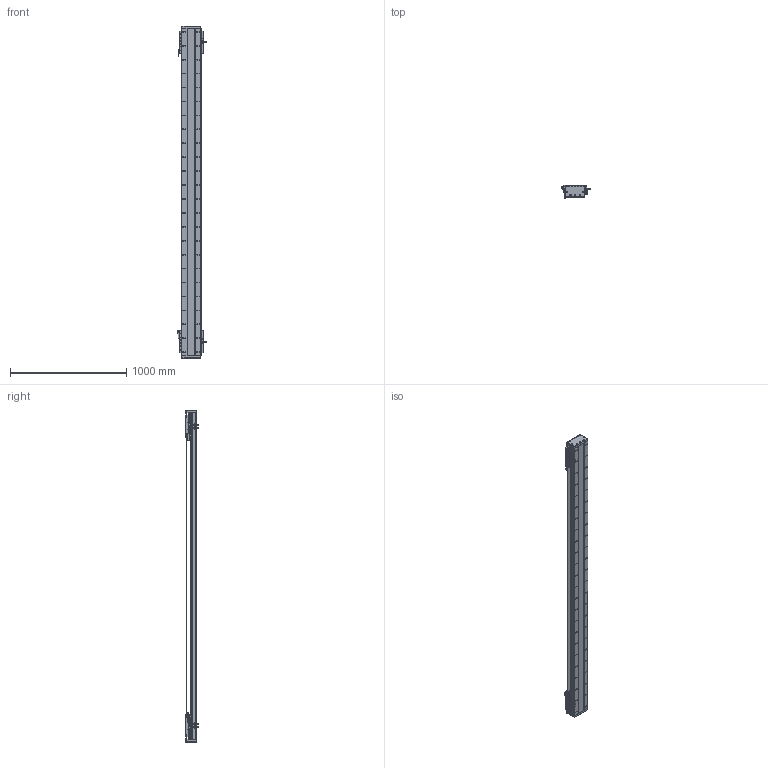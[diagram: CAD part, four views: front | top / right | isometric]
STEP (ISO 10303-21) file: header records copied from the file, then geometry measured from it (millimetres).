
FILE_DESCRIPTION (( 'STEP AP203' ), '1' );
FILE_NAME ('DA-C165-2-C2-T2360-C010-0.2 直线电机.STEP', '2023-05-11T08:28:44', ( '微软用户' ), ( '微软中国' ), 'SwSTEP 2.0', 'SolidWorks 2019', '' );
FILE_SCHEMA (( 'CONFIG_CONTROL_DESIGN' ));
Length unit declared in the file: millimetre
Products named in the file (22): 复件 DA126-GYP-ZJ-00 中间光电感应片^DA-C165-C2-T-C010-0.2-N 直线电机; 葩璃 CKM01-W075-TRL^DA-C165-C2-T-C010-0.2-N 眻盄萇儂; 复件 DA165-GYP-00 光电感应片^DA-C165-C2-T-C010-0.2-N 直线电机; 复件 CKM02-W075-C1C2-TP-3.0 一体电机-C2^DA-C165-C2-T-C010-0.2-N 直线电机; 葩璃 PM-T45^DA-C165-C2-T-C010-0.2-N 眻盄萇儂; 复件 DKW-HXJ-JY-00 缓冲橡胶^DA-C165-C2-T-C010-0.2-N 直线电机; 葩璃 DA95-GT-T-00^IU-CU165-L 菁釱絳寢_T; 复件 DA165-GD-1860-002-00 钢带盖板^复件 CU165钢带组件_DA-C165-C2-T-C010-0.2-N 直线电机; IU-CU165-L 菁釱絳寢; 复件 DA165-GDLK-00 钢带拉块^复件 CU165钢带组件_DA-C165-C2-T-C010-0.2-N 直线电机; 复件 66338-1000-006-00 光电感应块^DA-C165-C2-T-C010-0.2-N 直线电机; 复件 六角薄螺母 M3^DA-C165-C2-T-C010-0.2-N 直线电机_GB_FASTENER_NUT_STNAB M3-C; 复件 DMA-010-0.2 读数头^DA-C165-C2-T-C010-0.2-N 直线电机; 复件 DA165-GD-DG-H-00 端盖^复件 CU165钢带组件_DA-C165-C2-T-C010-0.2-N 直线电机; 复件 CU165钢带组件^DA-C165-C2-T-C010-0.2-N 直线电机; 珨极趙賑雄怢啣wf-C2; 复件 DA95-HXJ-00 缓冲橡胶^DA-C165-C2-T-C010-0.2-N 直线电机; 复件 XD-U-02L 磁栅尺^DA-C165-C2-T-C010-0.2-N 直线电机_T; IU-CU165-L-00 菁釱_L2820; 葩璃 PM-Y45^DA-C165-C2-T-C010-0.2-N 眻盄萇儂; 复件 DA165-GDYK-00 钢带压块^复件 CU165钢带组件_DA-C165-C2-T-C010-0.2-N 直线电机; DA-C165-2-C2-T2360-C010-0.2 眻盄萇儂
Assembly tree (43 placements, depth 3):
  DA-C165-2-C2-T2360-C010-0.2 眻盄萇儂
    IU-CU165-L 菁釱絳寢
      IU-CU165-L-00 菁釱_L2820
      葩璃 DA95-GT-T-00^IU-CU165-L 菁釱絳寢_T  x4
    复件 XD-U-02L 磁栅尺^DA-C165-C2-T-C010-0.2-N 直线电机_T
    葩璃 PM-T45^DA-C165-C2-T-C010-0.2-N 眻盄萇儂  x4
    葩璃 CKM01-W075-TRL^DA-C165-C2-T-C010-0.2-N 眻盄萇儂
    复件 CU165钢带组件^DA-C165-C2-T-C010-0.2-N 直线电机
      复件 DA165-GD-DG-H-00 端盖^复件 CU165钢带组件_DA-C165-C2-T-C010-0.2-N 直线电机  x2
      复件 DA165-GDYK-00 钢带压块^复件 CU165钢带组件_DA-C165-C2-T-C010-0.2-N 直线电机  x2
      复件 DA165-GD-1860-002-00 钢带盖板^复件 CU165钢带组件_DA-C165-C2-T-C010-0.2-N 直线电机
      复件 DA165-GDLK-00 钢带拉块^复件 CU165钢带组件_DA-C165-C2-T-C010-0.2-N 直线电机  x2
    复件 DA95-HXJ-00 缓冲橡胶^DA-C165-C2-T-C010-0.2-N 直线电机  x4
    复件 CKM02-W075-C1C2-TP-3.0 一体电机-C2^DA-C165-C2-T-C010-0.2-N 直线电机  x2
    复件 DMA-010-0.2 读数头^DA-C165-C2-T-C010-0.2-N 直线电机  x2
    复件 DA165-GYP-00 光电感应片^DA-C165-C2-T-C010-0.2-N 直线电机  x2
    复件 66338-1000-006-00 光电感应块^DA-C165-C2-T-C010-0.2-N 直线电机
    葩璃 PM-Y45^DA-C165-C2-T-C010-0.2-N 眻盄萇儂
    复件 DA126-GYP-ZJ-00 中间光电感应片^DA-C165-C2-T-C010-0.2-N 直线电机
    复件 DKW-HXJ-JY-00 缓冲橡胶^DA-C165-C2-T-C010-0.2-N 直线电机  x2
    复件 六角薄螺母 M3^DA-C165-C2-T-C010-0.2-N 直线电机_GB_FASTENER_NUT_STNAB M3-C  x6
    珨极趙賑雄怢啣wf-C2  x2
Bounding box: 247.2 x 111.45 x 2860 mm (x, y, z)
Volume: 17303325.1 mm3; surface area: 5053696.1 mm2
Topology: 119 solids, 119 shells, 5779 faces, 16364 edges, 10348 vertices
Faces by surface type: cylinder 3172, plane 1815, cone 704, torus 80, sphere 8
Entity records: 142536 total; most frequent: CARTESIAN_POINT 38711, ORIENTED_EDGE 21672, DIRECTION 20718, EDGE_CURVE 10836, AXIS2_PLACEMENT_3D 7878, VERTEX_POINT 7085, LINE 4962, VECTOR 4962
